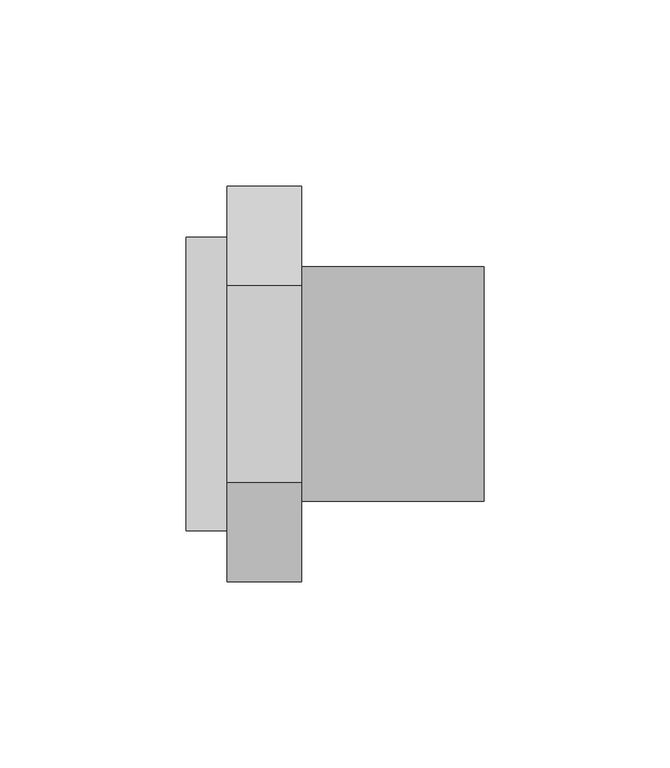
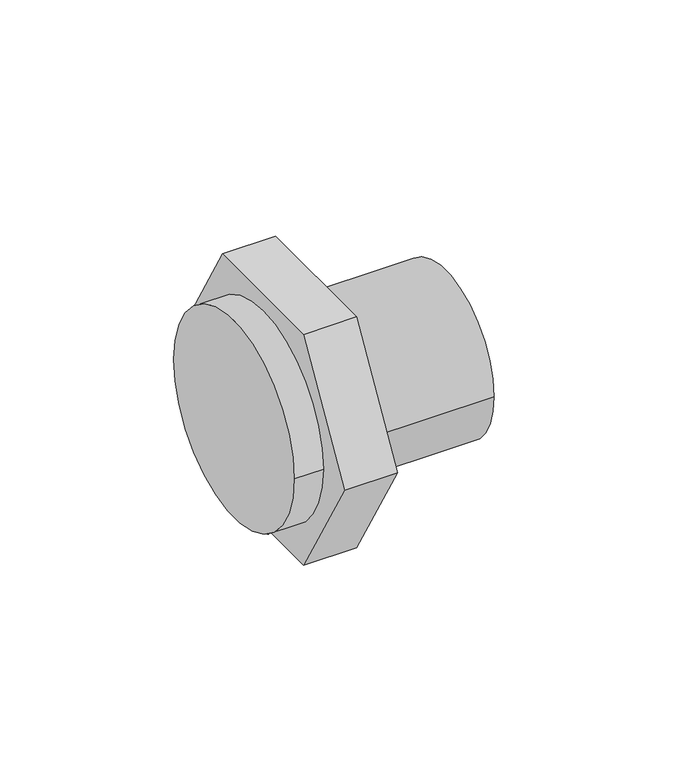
"""IFC4 building model written with IfcOpenShell, lengths in millimetres: pipe fitting geometry, 01101008 : Uniões múltiplas F/M/F."""

from ifc_helpers import new_model, si_unit, point, frame, origin, origin_2d, place, context, project, spatial, polyline, circle_curve, trimmed, segment, composite_curve, outline, extrude, source, transform, mapped, element, save


def pipe_fitting_0afb059b(model_context):
    return source(origin(), model_context, "Body", "SweptSolid", [
        extrude(outline(composite_curve([segment(trimmed(circle_curve(origin_2d(), 39.375), [point((39.375, 0.0))], [point((-39.375, 0.0))], False, "CARTESIAN"), True, "CONTINUOUS"), segment(trimmed(circle_curve(origin_2d(), 39.375), [point((-39.375, 0.0))], [point((39.375, 0.0))], False, "CARTESIAN"), True, "CONTINUOUS")], self_intersect=False)), frame((0.0, 0.0, 0.0), z_axis=(1.0, 0.0, 0.0), x_axis=(0.0, 1.0, 0.0)), (0.0, 0.0, 1.0), 11.0),
        extrude(outline(polyline([(-26.5581124, 46.0), (26.5581124, 46.0), (53.1162248, 0.0), (26.5581124, -46.0), (-26.5581124, -46.0), (-53.1162248, 0.0), (-26.5581124, 46.0)])), frame((11.0, 0.0, 0.0), z_axis=(1.0, 0.0, 0.0), x_axis=(0.0, 1.0, 0.0)), (0.0, 0.0, 1.0), 20.0),
        extrude(outline(composite_curve([segment(trimmed(circle_curve(origin_2d(), 31.5), [point((-31.5, 0.0))], [point((31.5, 0.0))], False, "CARTESIAN"), True, "CONTINUOUS"), segment(trimmed(circle_curve(origin_2d(), 31.5), [point((31.5, 0.0))], [point((-31.5, 0.0))], False, "CARTESIAN"), True, "CONTINUOUS")], self_intersect=False)), frame((31.0, 0.0, 0.0), z_axis=(1.0, 0.0, 0.0), x_axis=(0.0, 1.0, 0.0)), (0.0, 0.0, 1.0), 49.0),
    ])


if __name__ == "__main__":
    model = new_model("IFC4")
    model_context = context("Model", 3, world=origin())
    ifc_project = project(units=[si_unit("LENGTHUNIT", "METRE", prefix="MILLI")], contexts=[model_context])
    site = spatial("IfcSite", under=ifc_project)
    building = spatial("IfcBuilding", under=site)
    placement = place(None, origin())
    pipe_fitting_shape = pipe_fitting_0afb059b(model_context)
    element("IfcPipeFitting", 1, ObjectType="01101008 : Uniões múltiplas F/M/F", at=placement, inside=building, context=model_context, shape_type="MappedRepresentation", body=[
        mapped(pipe_fitting_shape, transform((0.0, 0.0, 0.0), x_axis=(1.0, 0.0, 0.0), y_axis=(0.0, 1.0, 0.0), z_axis=(0.0, 0.0, 1.0))),
    ])
    save(model, "model.ifc")
